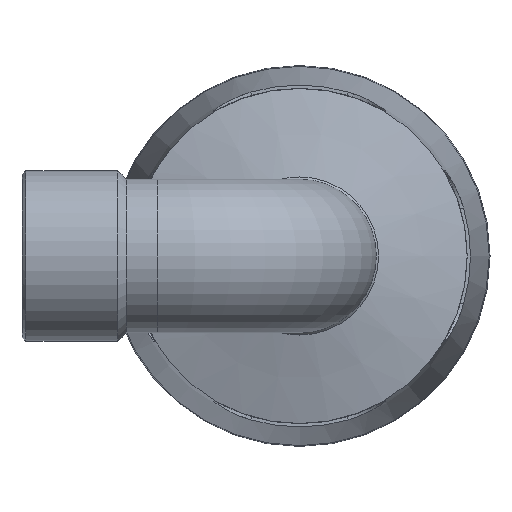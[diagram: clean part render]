
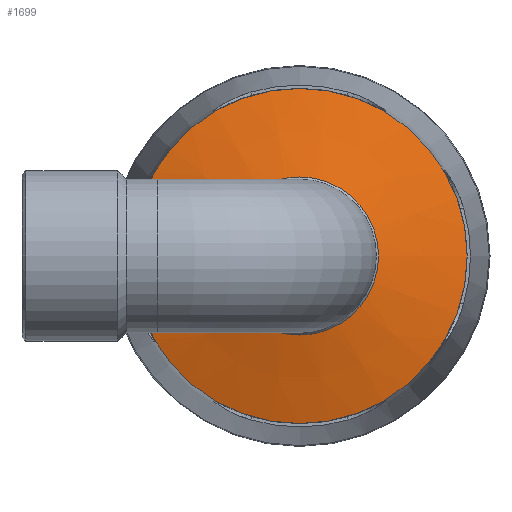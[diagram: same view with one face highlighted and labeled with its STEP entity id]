
A CAD part, left-side view. The second image highlights one B-rep face of the part: STEP entity #1699.
In plain terms, the highlighted conical face has half-angle 75 degrees and reference radius 22.454 mm.
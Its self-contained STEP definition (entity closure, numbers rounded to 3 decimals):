
#335=CONICAL_SURFACE('',#1811,22.454,75.);
#341=FACE_BOUND('',#479,.T.);
#369=FACE_OUTER_BOUND('',#478,.T.);
#478=EDGE_LOOP('',(#1107));
#479=EDGE_LOOP('',(#1108));
#613=CIRCLE('',#1810,14.524);
#614=CIRCLE('',#1812,30.8);
#708=VERTEX_POINT('',#2503);
#709=VERTEX_POINT('',#2506);
#867=EDGE_CURVE('',#708,#708,#613,.T.);
#868=EDGE_CURVE('',#709,#709,#614,.T.);
#1107=ORIENTED_EDGE('',*,*,#868,.F.);
#1108=ORIENTED_EDGE('',*,*,#867,.F.);
#1699=ADVANCED_FACE('',(#369,#341),#335,.T.);
#1810=AXIS2_PLACEMENT_3D('',#2504,#2017,#2018);
#1811=AXIS2_PLACEMENT_3D('',#2505,#2019,#2020);
#1812=AXIS2_PLACEMENT_3D('',#2507,#2021,#2022);
#2017=DIRECTION('center_axis',(-1.,0.,0.));
#2018=DIRECTION('ref_axis',(0.,-1.,0.));
#2019=DIRECTION('center_axis',(1.,0.,0.));
#2020=DIRECTION('ref_axis',(0.,-1.,0.));
#2021=DIRECTION('center_axis',(1.,0.,0.));
#2022=DIRECTION('ref_axis',(0.,0.,-1.));
#2503=CARTESIAN_POINT('',(29.919,14.524,0.));
#2504=CARTESIAN_POINT('Origin',(29.919,0.,0.));
#2505=CARTESIAN_POINT('Origin',(32.044,0.,0.));
#2506=CARTESIAN_POINT('',(34.28,30.8,0.));
#2507=CARTESIAN_POINT('Origin',(34.28,0.,0.));
